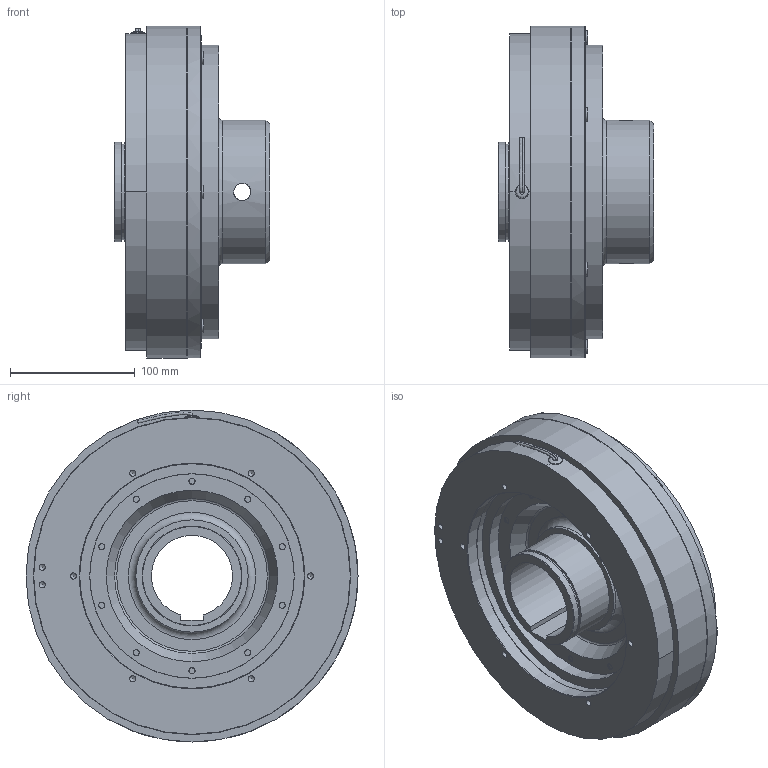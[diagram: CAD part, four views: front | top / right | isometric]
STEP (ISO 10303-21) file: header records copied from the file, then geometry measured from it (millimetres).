
FILE_DESCRIPTION(/* description */ (''),/* implementation_level */ '2;1');
FILE_NAME(/* name */ 'X:\INVENTOR\DISEGNI\08_Freni_Friz_Elettmag_Monodisco\08_26 EMSL_DF\EMSL_DF STEP\08_26_260_22 EMSL260_DF-BM-ME@STEP.stp',/* time_stamp */ '2018-04-24T09:07:33+02:00',/* author */ ('stefano'),/* organization */ (''),/* preprocessor_version */ 'ST-DEVELOPER v17',/* originating_system */ 'Autodesk Inventor 2018',/* authorisation */ '');
FILE_SCHEMA (('AUTOMOTIVE_DESIGN { 1 0 10303 214 3 1 1 }'));
Length unit declared in the file: millimetre
Products named in the file (1): 08_26_260_22 EMSL260_DF-BM-ME_Substitute_1
Bounding box: 124.5 x 266 x 266 mm (x, y, z)
Volume: 2763600.6 mm3; surface area: 502573.8 mm2
Topology: 3 solids, 3 shells, 608 faces, 1711 edges, 1172 vertices
Faces by surface type: cylinder 276, plane 209, cone 99, torus 21, bspline 3
Full cylindrical faces by diameter (mm): 2 x12, 4 x1, 4.917 x18, 6.647 x6, 7 x12, 7.1 x18, 10 x10, 11 x25, 12.5 x6, 13 x6, 13.835 x2, 76.5 x1, 80 x2, 90 x1, 115 x1, 138 x1, 163.8 x1, 164 x1, 166 x1, 180 x2, 180.6 x1, 194 x1, 235 x1, 243 x1, 254.3 x1, 266 x2
Entity records: 21177 total; most frequent: CARTESIAN_POINT 4247, DIRECTION 3714, ORIENTED_EDGE 3352, EDGE_CURVE 1676, AXIS2_PLACEMENT_3D 1562, VERTEX_POINT 1172, CIRCLE 956, EDGE_LOOP 776
